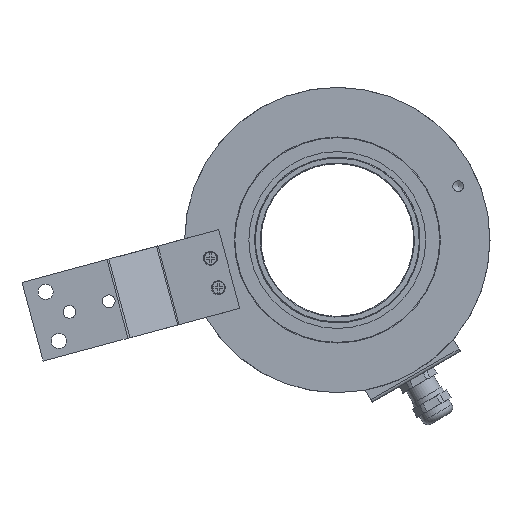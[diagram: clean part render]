
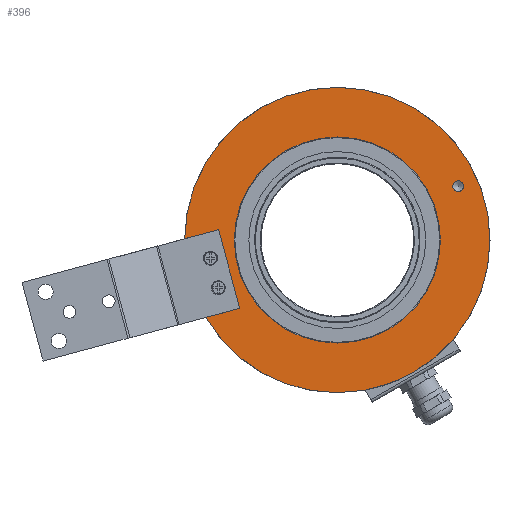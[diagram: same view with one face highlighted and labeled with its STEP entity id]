
A CAD part, left-side view. The second image highlights one B-rep face of the part: STEP entity #396.
In plain terms, the highlighted planar face has unit normal (-1, 0, 0).
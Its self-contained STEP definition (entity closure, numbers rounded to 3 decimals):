
#396 = ADVANCED_FACE( '', ( #1053, #1054, #1055 ), #1056, .T. );
#1053 = FACE_OUTER_BOUND( '', #2108, .T. );
#1054 = FACE_BOUND( '', #2109, .T. );
#1055 = FACE_BOUND( '', #2110, .T. );
#1056 = PLANE( '', #2111 );
#2108 = EDGE_LOOP( '', ( #3354, #3355, #3356, #3357 ) );
#2109 = EDGE_LOOP( '', ( #3358 ) );
#2110 = EDGE_LOOP( '', ( #3359 ) );
#2111 = AXIS2_PLACEMENT_3D( '', #3360, #3361, #3362 );
#3354 = ORIENTED_EDGE( '', *, *, #5264, .T. );
#3355 = ORIENTED_EDGE( '', *, *, #5114, .T. );
#3356 = ORIENTED_EDGE( '', *, *, #5265, .T. );
#3357 = ORIENTED_EDGE( '', *, *, #5266, .F. );
#3358 = ORIENTED_EDGE( '', *, *, #5267, .T. );
#3359 = ORIENTED_EDGE( '', *, *, #5268, .F. );
#3360 = CARTESIAN_POINT( '', ( 0., 0., 40.5 ) );
#3361 = DIRECTION( '', ( -1., 0., 0. ) );
#3362 = DIRECTION( '', ( 0., 0., 1. ) );
#5114 = EDGE_CURVE( '', #5913, #5932, #5934, .T. );
#5264 = EDGE_CURVE( '', #6187, #5913, #6188, .T. );
#5265 = EDGE_CURVE( '', #5932, #6189, #6190, .T. );
#5266 = EDGE_CURVE( '', #6187, #6189, #6191, .T. );
#5267 = EDGE_CURVE( '', #6192, #6192, #6193, .T. );
#5268 = EDGE_CURVE( '', #6194, #6194, #6195, .T. );
#5913 = VERTEX_POINT( '', #7041 );
#5932 = VERTEX_POINT( '', #7067 );
#5934 = LINE( '', #7070, #7071 );
#6187 = VERTEX_POINT( '', #7651 );
#6188 = CIRCLE( '', #7652, 60. );
#6189 = VERTEX_POINT( '', #7653 );
#6190 = LINE( '', #7654, #7655 );
#6191 = LINE( '', #7656, #7657 );
#6192 = VERTEX_POINT( '', #7658 );
#6193 = CIRCLE( '', #7659, 2.1 );
#6194 = VERTEX_POINT( '', #7660 );
#6195 = CIRCLE( '', #7661, 40.5 );
#7041 = CARTESIAN_POINT( '', ( 0., 59.998, 0.488 ) );
#7067 = CARTESIAN_POINT( '', ( 0., 46.642, 4.067 ) );
#7070 = CARTESIAN_POINT( '', ( 0., 70.473, -2.319 ) );
#7071 = VECTOR( '', #8840, 1000. );
#7651 = CARTESIAN_POINT( '', ( 0., 51.716, -30.422 ) );
#7652 = AXIS2_PLACEMENT_3D( '', #9046, #9047, #9048 );
#7653 = CARTESIAN_POINT( '', ( 0., 38.36, -26.843 ) );
#7654 = CARTESIAN_POINT( '', ( 0., 46.642, 4.067 ) );
#7655 = VECTOR( '', #9049, 1000. );
#7656 = CARTESIAN_POINT( '', ( 0., 62.191, -33.228 ) );
#7657 = VECTOR( '', #9050, 1000. );
#7658 = CARTESIAN_POINT( '', ( 0., -47.504, 23.25 ) );
#7659 = AXIS2_PLACEMENT_3D( '', #9051, #9052, #9053 );
#7660 = CARTESIAN_POINT( '', ( 0., 0., 40.5 ) );
#7661 = AXIS2_PLACEMENT_3D( '', #9054, #9055, #9056 );
#8840 = DIRECTION( '', ( 0., -0.966, 0.259 ) );
#9046 = CARTESIAN_POINT( '', ( 0., 0., 0. ) );
#9047 = DIRECTION( '', ( -1., 0., 0. ) );
#9048 = DIRECTION( '', ( 0., 0., 1. ) );
#9049 = DIRECTION( '', ( 0., -0.259, -0.966 ) );
#9050 = DIRECTION( '', ( 0., -0.966, 0.259 ) );
#9051 = CARTESIAN_POINT( '', ( 0., -47.504, 21.15 ) );
#9052 = DIRECTION( '', ( 1., 0., 0. ) );
#9053 = DIRECTION( '', ( 0., 0., 1. ) );
#9054 = CARTESIAN_POINT( '', ( 0., 0., 0. ) );
#9055 = DIRECTION( '', ( -1., 0., 0. ) );
#9056 = DIRECTION( '', ( 0., 0., 1. ) );
